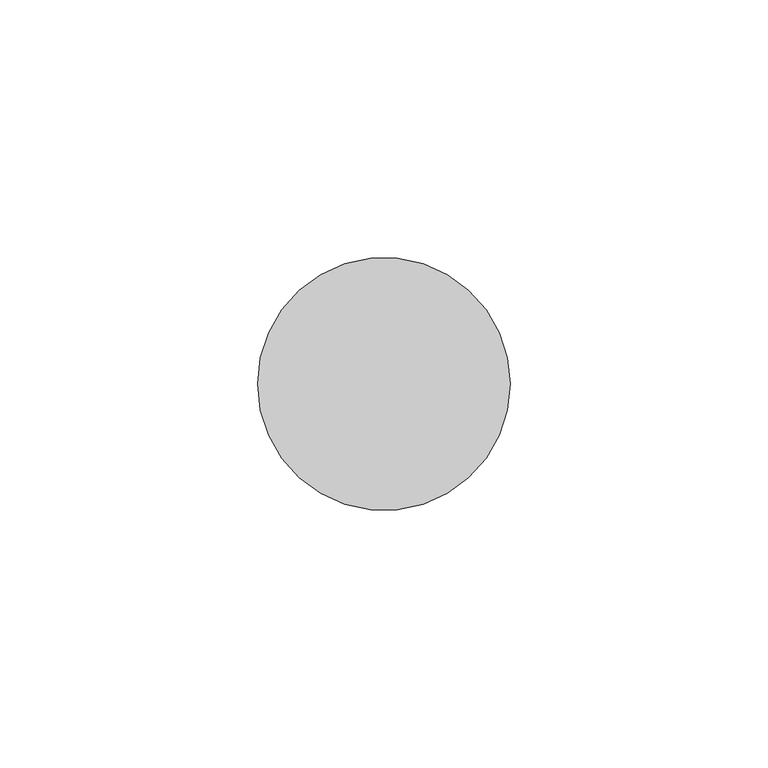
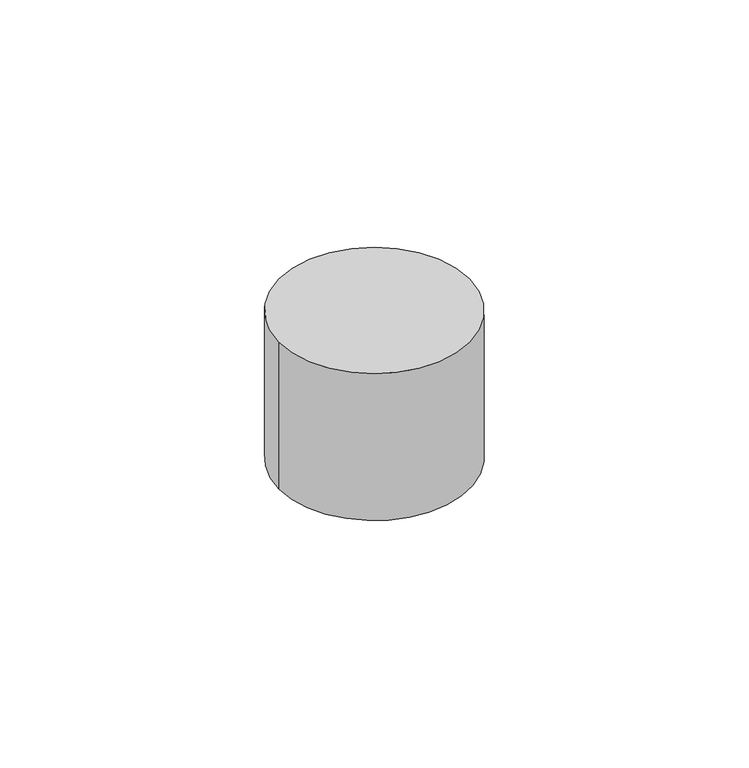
"""IFC4 building model written with IfcOpenShell, lengths in millimetres: proxy geometry, Pied antivibratile ep 40 : Pied antivibratile ep 40."""

from ifc_helpers import new_model, si_unit, point, origin, origin_with_axes, origin_2d, place, context, project, spatial, circle_curve, trimmed, segment, composite_curve, outline, extrude, source, transform, mapped, element, save


def mechanical_equipment_07906a4f(model_context):
    return source(origin(), model_context, "Body", "SweptSolid", [
        extrude(outline(composite_curve([segment(trimmed(circle_curve(origin_2d(), 24.5), [point((-24.5, 0.0))], [point((24.5, 0.0))], False, "CARTESIAN"), True, "CONTINUOUS"), segment(trimmed(circle_curve(origin_2d(), 24.5), [point((24.5, 0.0))], [point((-24.5, 0.0))], False, "CARTESIAN"), True, "CONTINUOUS")], self_intersect=False)), origin_with_axes(), (0.0, 0.0, 1.0), 40.0),
    ])


if __name__ == "__main__":
    model = new_model("IFC4")
    model_context = context("Model", 3, world=origin())
    ifc_project = project(units=[si_unit("LENGTHUNIT", "METRE", prefix="MILLI")], contexts=[model_context])
    site = spatial("IfcSite", under=ifc_project)
    building = spatial("IfcBuilding", under=site)
    placement = place(None, origin())
    mechanical_equipment_shape = mechanical_equipment_07906a4f(model_context)
    element("IfcBuildingElementProxy", 1, Name="Pied antivibratile ep 40 : Pied antivibratile ep 40", ObjectType="Pied antivibratile ep 40 : Pied antivibratile ep 40", at=placement, inside=building, context=model_context, shape_type="MappedRepresentation", body=[
        mapped(mechanical_equipment_shape, transform((0.0, 0.0, 0.0), x_axis=(1.0, 0.0, 0.0), y_axis=(0.0, 1.0, 0.0), z_axis=(0.0, 0.0, 1.0))),
    ])
    save(model, "model.ifc")
